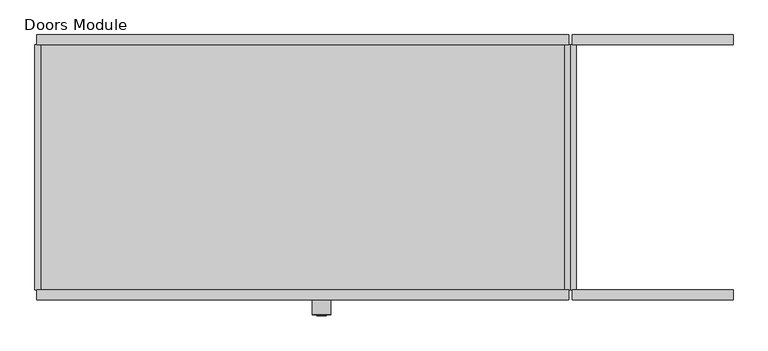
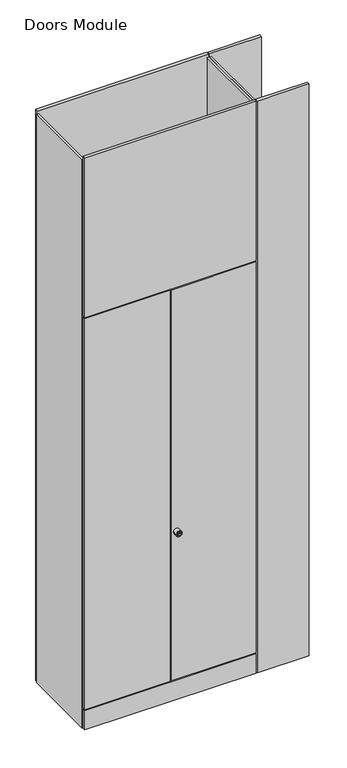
"""IFC4 building model written with IfcOpenShell, lengths in millimetres: furniture geometry, Furniture_Storage_Spacestor_SignatureStoragewall : Doors Module."""

from ifc_helpers import new_model, si_unit, point, frame, origin, origin_with_axes, place, context, project, spatial, polyline, circle_curve, ellipse_curve, trimmed, outline, extrude, source, transform, mapped, element, save
from ifc_brep_helpers import plane_surface, cylinder_surface, revolved_surface, advanced_brep


def doors_module_a12276d2(model_context):
    return source(origin(), model_context, "Body", "SolidModel", [
        extrude(outline(polyline([(996.5, 459.0), (3.5, 459.0), (3.5, 477.0), (996.5, 477.0), (996.5, 459.0)])), origin_with_axes(), (0.0, 0.0, 1.0), 3500.0),
        extrude(outline(polyline([(996.5, -18.0), (3.5, -18.0), (3.5, 0.0), (996.5, 0.0), (996.5, -18.0)])), origin_with_axes(), (0.0, 0.0, 1.0), 118.0),
        extrude(outline(polyline([(996.5, -18.0), (3.5, -18.0), (3.5, 0.0), (996.5, 0.0), (996.5, -18.0)])), frame((0.0, 0.0, 2525.0), z_axis=(0.0, 0.0, 1.0), x_axis=(1.0, 0.0, 0.0)), (0.0, 0.0, 1.0), 975.0),
        extrude(outline(polyline([(1303.5, 459.0), (1003.5, 459.0), (1003.5, 477.0), (1303.5, 477.0), (1303.5, 459.0)])), origin_with_axes(), (0.0, 0.0, 1.0), 3500.0),
        extrude(outline(polyline([(1303.5, -18.0), (1003.5, -18.0), (1003.5, 0.0), (1303.5, 0.0), (1303.5, -18.0)])), origin_with_axes(), (0.0, 0.0, 1.0), 3500.0),
        extrude(outline(polyline([(1011.0, 0.0), (1000.0, 0.0), (1000.0, 459.0), (1011.0, 459.0), (1011.0, 0.0)])), origin_with_axes(), (0.0, 0.0, 1.0), 3482.0),
        extrude(outline(polyline([(1000.0, 0.0), (989.0, 0.0), (989.0, 459.0), (1000.0, 459.0), (1000.0, 0.0)])), origin_with_axes(), (0.0, 0.0, 1.0), 3482.0),
        extrude(outline(polyline([(11.0, 0.0), (0.0, 0.0), (0.0, 459.0), (11.0, 459.0), (11.0, 0.0)])), origin_with_axes(), (0.0, 0.0, 1.0), 3482.0),
        extrude(outline(polyline([(989.0, 0.0), (11.0, 0.0), (11.0, 459.0), (989.0, 459.0), (989.0, 0.0)])), frame((0.0, 0.0, 2023.0), z_axis=(0.0, 0.0, 1.0), x_axis=(1.0, 0.0, 0.0)), (0.0, 0.0, 1.0), 22.0),
        extrude(outline(polyline([(989.0, 0.0), (11.0, 0.0), (11.0, 459.0), (989.0, 459.0), (989.0, 0.0)])), frame((0.0, 0.0, 1639.0), z_axis=(0.0, 0.0, 1.0), x_axis=(1.0, 0.0, 0.0)), (0.0, 0.0, 1.0), 22.0),
        extrude(outline(polyline([(989.0, 0.0), (11.0, 0.0), (11.0, 459.0), (989.0, 459.0), (989.0, 0.0)])), frame((0.0, 0.0, 1255.0), z_axis=(0.0, 0.0, 1.0), x_axis=(1.0, 0.0, 0.0)), (0.0, 0.0, 1.0), 22.0),
        extrude(outline(polyline([(989.0, 0.0), (11.0, 0.0), (11.0, 459.0), (989.0, 459.0), (989.0, 0.0)])), frame((0.0, 0.0, 871.0), z_axis=(0.0, 0.0, 1.0), x_axis=(1.0, 0.0, 0.0)), (0.0, 0.0, 1.0), 22.0),
        extrude(outline(polyline([(989.0, 0.0), (11.0, 0.0), (11.0, 459.0), (989.0, 459.0), (989.0, 0.0)])), frame((0.0, 0.0, 487.0), z_axis=(0.0, 0.0, 1.0), x_axis=(1.0, 0.0, 0.0)), (0.0, 0.0, 1.0), 22.0),
        advanced_brep(
        [(552.0, -45.3116344, 1032.0), (518.0, -45.3116344, 1032.0), (518.0, -18.0, 1032.0), (552.0, -18.0, 1032.0), (535.0, -18.0, 1032.0), (543.9747319, -46.3150077, 1032.0), (526.0252681, -46.3150077, 1032.0), (519.0033734, -46.3150077, 1032.0), (550.9966266, -46.3150077, 1032.0), (543.9747319, -47.4703043, 1032.0), (526.0252681, -47.4703043, 1032.0), (539.8245152, -47.4703043, 1032.0), (539.8245152, -47.4703043, 1030.6366562), (530.1754848, -47.4703043, 1030.6366562), (530.1754848, -47.4703043, 1032.0), (530.1754848, -47.4703043, 1033.3633438), (539.8245152, -47.4703043, 1033.3633438), (530.1754848, -27.8604291, 1030.6366562), (539.8245152, -27.8604291, 1030.6366562), (539.8245152, -27.8604291, 1033.3633438), (530.1754848, -27.8604291, 1033.3633438)],
        [
            (0, 1, circle_curve(frame((535.0, -45.3116344, 1032.0), z_axis=(0.0, 1.0, 0.0), x_axis=(-1.0, 0.0, 0.0)), 17.0)),
            (1, 2),
            (2, 3, circle_curve(frame((535.0, -18.0, 1032.0), z_axis=(0.0, -1.0, 0.0), x_axis=(-1.0, 0.0, 0.0)), 17.0)),
            (3, 0),
            (1, 0, circle_curve(frame((535.0, -45.3116344, 1032.0), z_axis=(0.0, 1.0, 0.0), x_axis=(-1.0, 0.0, 0.0)), 17.0)),
            (3, 2, circle_curve(frame((535.0, -18.0, 1032.0), z_axis=(0.0, -1.0, 0.0), x_axis=(-1.0, 0.0, 0.0)), 17.0)),
            (2, 4),
            (4, 3),
            (5, 6, circle_curve(frame((535.0, -46.3150077, 1032.0), z_axis=(0.0, 1.0, 0.0), x_axis=(-1.0, 0.0, 0.0)), 8.9747319)),
            (6, 7),
            (7, 8, circle_curve(frame((535.0, -46.3150077, 1032.0), z_axis=(0.0, -1.0, 0.0), x_axis=(-1.0, 0.0, 0.0)), 15.9966266)),
            (8, 5),
            (6, 5, circle_curve(frame((535.0, -46.3150077, 1032.0), z_axis=(0.0, 1.0, 0.0), x_axis=(-1.0, 0.0, 0.0)), 8.9747319)),
            (8, 7, circle_curve(frame((535.0, -46.3150077, 1032.0), z_axis=(0.0, -1.0, 0.0), x_axis=(-1.0, 0.0, 0.0)), 15.9966266)),
            (0, 8, circle_curve(frame((550.9966266, -45.3116344, 1032.0), z_axis=(0.0, 0.0, -1.0), x_axis=(1.0, 0.0, 0.0)), 1.0033734)),
            (7, 1, circle_curve(frame((519.0033734, -45.3116344, 1032.0), z_axis=(0.0, 0.0, -1.0), x_axis=(-1.0, 0.0, 0.0)), 1.0033734)),
            (5, 9),
            (9, 10, circle_curve(frame((535.0, -47.4703043, 1032.0), z_axis=(0.0, 1.0, 0.0), x_axis=(-1.0, 0.0, 0.0)), 8.9747319)),
            (10, 6),
            (10, 9, circle_curve(frame((535.0, -47.4703043, 1032.0), z_axis=(0.0, 1.0, 0.0), x_axis=(-1.0, 0.0, 0.0)), 8.9747319)),
            (9, 11),
            (11, 12),
            (12, 13),
            (13, 14),
            (14, 10),
            (14, 15),
            (15, 16),
            (16, 11),
            (17, 18),
            (18, 19),
            (19, 20),
            (20, 17),
            (17, 13),
            (12, 18),
            (16, 19),
            (15, 20),
        ],
        [
            cylinder_surface(frame((535.0, -2627.0581012, 1032.0), z_axis=(0.0, -1.0, 0.0), x_axis=(-1.0, 0.0, 0.0)), 17.0),
            plane_surface(frame((535.0, -18.0, 1032.0), z_axis=(0.0, 1.0, 0.0), x_axis=(-1.0, 0.0, 0.0))),
            plane_surface(frame((535.0, -46.3150077, 1032.0), z_axis=(0.0, -1.0, 0.0), x_axis=(-1.0, 0.0, 0.0))),
            revolved_surface(trimmed(ellipse_curve(frame((519.0033734, -45.3116344, 1032.0), z_axis=(0.0, 0.0, 1.0), x_axis=(-1.0, 0.0, 0.0)), 1.0033734, 1.0033734), [point((518.0, -45.3116344, 1032.0))], [point((519.0033734, -46.3150077, 1032.0))], True, "CARTESIAN"), (535.0, -2627.0581012, 1032.0), (0.0, -1.0, 0.0)),
            cylinder_surface(frame((535.0, -2627.0581012, 1032.0), z_axis=(0.0, -1.0, 0.0), x_axis=(-1.0, 0.0, 0.0)), 8.9747319),
            plane_surface(frame((535.0, -47.4703043, 1032.0), z_axis=(0.0, -1.0, 0.0), x_axis=(-1.0, 0.0, 0.0))),
            plane_surface(frame((539.4565249, -27.8604291, 1030.6366562), z_axis=(0.0, -1.0, 0.0), x_axis=(-1.0, 0.0, 0.0))),
            plane_surface(frame((530.1754848, -49.2046383, 1030.6366562), z_axis=(0.0, 0.0, 1.0), x_axis=(0.0, 1.0, 0.0))),
            plane_surface(frame((539.8245152, -49.2046383, 1030.6366562), z_axis=(-1.0, 0.0, 0.0), x_axis=(0.0, 1.0, 0.0))),
            plane_surface(frame((539.8245152, -49.2046383, 1033.3633438), z_axis=(0.0, 0.0, -1.0), x_axis=(0.0, 1.0, 0.0))),
            plane_surface(frame((530.1754848, -49.2046383, 1033.3633438), z_axis=(1.0, 0.0, 0.0), x_axis=(0.0, 1.0, 0.0))),
        ],
        [
            (0, [[1, 2, 3, 4]]),
            (0, [[-2, 5, -4, 6]]),
            (1, [[-3, 7, 8]]),
            (1, [[-6, -8, -7]]),
            (2, [[9, 10, 11, 12]]),
            (2, [[-10, 13, -12, 14]]),
            (3, [[-1, 15, -11, 16]]),
            (3, [[-5, -16, -14, -15]]),
            (4, [[-9, 17, 18, 19]]),
            (4, [[-13, -19, 20, -17]]),
            (5, [[-18, 21, 22, 23, 24, 25]]),
            (5, [[-20, -25, 26, 27, 28, -21]]),
            (6, [[29, 30, 31, 32]]),
            (7, [[-29, 33, -23, 34]]),
            (8, [[-30, -34, -22, -28, 35]]),
            (9, [[-31, -35, -27, 36]]),
            (10, [[-32, -36, -26, -24, -33]]),
        ],
    ),
        extrude(outline(polyline([(3.5, -18.0), (3.5, 0.0), (496.5, 0.0), (496.5, -18.0), (3.5, -18.0)])), frame((0.0, 0.0, 125.0), z_axis=(0.0, 0.0, 1.0), x_axis=(1.0, 0.0, 0.0)), (0.0, 0.0, 1.0), 2393.0),
        extrude(outline(polyline([(996.5, -18.0), (503.5, -18.0), (503.5, 0.0), (996.5, 0.0), (996.5, -18.0)])), frame((0.0, 0.0, 125.0), z_axis=(0.0, 0.0, 1.0), x_axis=(1.0, 0.0, 0.0)), (0.0, 0.0, 1.0), 2393.0),
        extrude(outline(polyline([(989.0, 0.0), (11.0, 0.0), (11.0, 459.0), (989.0, 459.0), (989.0, 0.0)])), frame((0.0, 0.0, 110.5), z_axis=(0.0, 0.0, 1.0), x_axis=(1.0, 0.0, 0.0)), (0.0, 0.0, 1.0), 22.0),
        extrude(outline(polyline([(989.0, 0.0), (11.0, 0.0), (11.0, 459.0), (989.0, 459.0), (989.0, 0.0)])), frame((0.0, 0.0, 2510.0), z_axis=(0.0, 0.0, 1.0), x_axis=(1.0, 0.0, 0.0)), (0.0, 0.0, 1.0), 22.0),
    ])


if __name__ == "__main__":
    model = new_model("IFC4")
    model_context = context("Model", 3, world=origin())
    ifc_project = project(units=[si_unit("LENGTHUNIT", "METRE", prefix="MILLI")], contexts=[model_context])
    site = spatial("IfcSite", under=ifc_project)
    building = spatial("IfcBuilding", under=site)
    placement = place(None, origin())
    doors_module_shape = doors_module_a12276d2(model_context)
    element("IfcFurniture", 1, ObjectType="Furniture_Storage_Spacestor_SignatureStoragewall : Doors Module", at=placement, inside=building, context=model_context, shape_type="MappedRepresentation", body=[
        mapped(doors_module_shape, transform((0.0, 0.0, 0.0), x_axis=(1.0, 0.0, 0.0), y_axis=(0.0, 1.0, 0.0), z_axis=(0.0, 0.0, 1.0))),
    ])
    save(model, "model.ifc")
